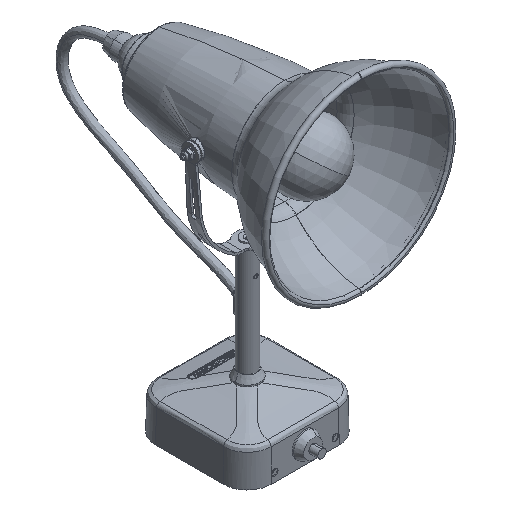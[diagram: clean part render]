
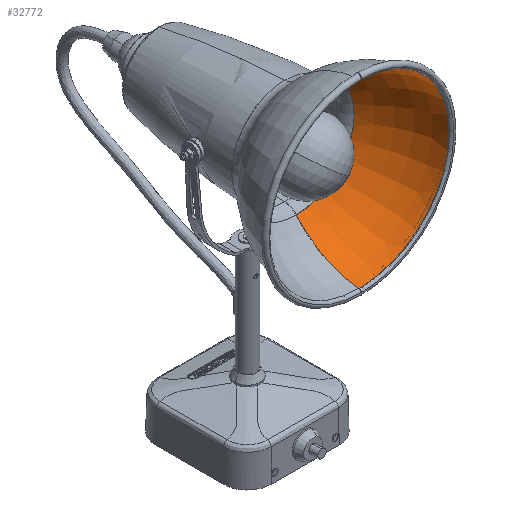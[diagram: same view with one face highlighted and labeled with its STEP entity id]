
A CAD part, isometric view. The second image highlights one B-rep face of the part: STEP entity #32772.
In plain terms, the highlighted toroidal (fillet/blend) face has major radius 1.421 mm and minor radius 62.667 mm.
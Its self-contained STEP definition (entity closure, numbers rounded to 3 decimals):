
#18 = EDGE_CURVE ( 'NONE', #6163, #15200, #26473, .T. ) ;
#1126 = EDGE_LOOP ( 'NONE', ( #22926, #7812, #27794, #24236 ) ) ;
#1245 = CIRCLE ( 'NONE', #31700, 62.667 ) ;
#1305 = DIRECTION ( 'NONE',  ( 0., 0., 1. ) ) ;
#1520 = AXIS2_PLACEMENT_3D ( 'NONE', #4338, #22373, #6944 ) ;
#2967 = DIRECTION ( 'NONE',  ( -1., 0., 0. ) ) ;
#3723 = CARTESIAN_POINT ( 'NONE',  ( 0., -33.16, 221.544 ) ) ;
#4338 = CARTESIAN_POINT ( 'NONE',  ( 0., -33.16, 182.45 ) ) ;
#5482 = AXIS2_PLACEMENT_3D ( 'NONE', #8389, #11005, #21188 ) ;
#5931 = FACE_OUTER_BOUND ( 'NONE', #1126, .T. ) ;
#6163 = VERTEX_POINT ( 'NONE', #23052 ) ;
#6944 = DIRECTION ( 'NONE',  ( 0., 0., 1. ) ) ;
#7812 = ORIENTED_EDGE ( 'NONE', *, *, #25599, .T. ) ;
#8389 = CARTESIAN_POINT ( 'NONE',  ( 0., -75.508, 182.45 ) ) ;
#9156 = AXIS2_PLACEMENT_3D ( 'NONE', #31403, #16724, #1305 ) ;
#9548 = EDGE_CURVE ( 'NONE', #10855, #15200, #1245, .T. ) ;
#10855 = VERTEX_POINT ( 'NONE', #3723 ) ;
#11005 = DIRECTION ( 'NONE',  ( 0., -1., 0. ) ) ;
#11368 = CIRCLE ( 'NONE', #21024, 62.667 ) ;
#11804 = CARTESIAN_POINT ( 'NONE',  ( 0., -80.969, 181.029 ) ) ;
#13721 = CIRCLE ( 'NONE', #1520, 39.094 ) ;
#14371 = DIRECTION ( 'NONE',  ( 0., 1., 0. ) ) ;
#14402 = EDGE_CURVE ( 'NONE', #10855, #18512, #13721, .T. ) ;
#15200 = VERTEX_POINT ( 'NONE', #16530 ) ;
#16530 = CARTESIAN_POINT ( 'NONE',  ( 0., -75.508, 243.458 ) ) ;
#16724 = DIRECTION ( 'NONE',  ( 0., -1., 0. ) ) ;
#18384 = CARTESIAN_POINT ( 'NONE',  ( 0., -80.969, 183.871 ) ) ;
#18512 = VERTEX_POINT ( 'NONE', #20408 ) ;
#20408 = CARTESIAN_POINT ( 'NONE',  ( 0., -33.16, 143.356 ) ) ;
#20981 = DIRECTION ( 'NONE',  ( 0., 0., 1. ) ) ;
#21024 = AXIS2_PLACEMENT_3D ( 'NONE', #18384, #2967, #20981 ) ;
#21188 = DIRECTION ( 'NONE',  ( 0., 0., 1. ) ) ;
#22373 = DIRECTION ( 'NONE',  ( 0., 1., 0. ) ) ;
#22926 = ORIENTED_EDGE ( 'NONE', *, *, #14402, .T. ) ;
#23052 = CARTESIAN_POINT ( 'NONE',  ( 0., -75.508, 121.442 ) ) ;
#23245 = TOROIDAL_SURFACE ( 'NONE', #9156, -1.421, 62.667 ) ;
#24236 = ORIENTED_EDGE ( 'NONE', *, *, #9548, .F. ) ;
#25599 = EDGE_CURVE ( 'NONE', #18512, #6163, #11368, .T. ) ;
#26473 = CIRCLE ( 'NONE', #5482, 61.008 ) ;
#27794 = ORIENTED_EDGE ( 'NONE', *, *, #18, .T. ) ;
#29720 = DIRECTION ( 'NONE',  ( 1., 0., 0. ) ) ;
#31403 = CARTESIAN_POINT ( 'NONE',  ( 0., -80.969, 182.45 ) ) ;
#31700 = AXIS2_PLACEMENT_3D ( 'NONE', #11804, #29720, #14371 ) ;
#32772 = ADVANCED_FACE ( 'NONE', ( #5931 ), #23245, .F. ) ;
